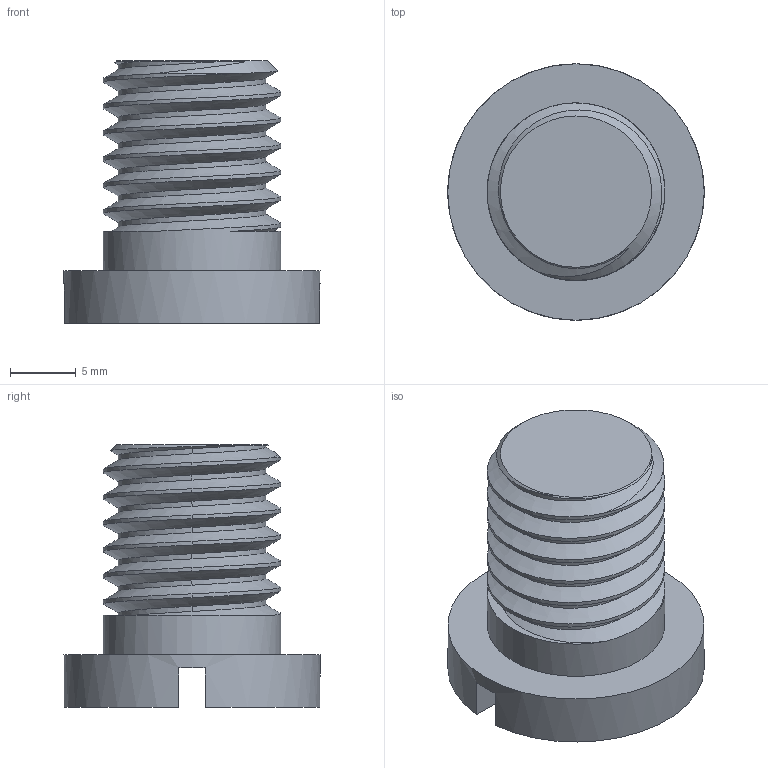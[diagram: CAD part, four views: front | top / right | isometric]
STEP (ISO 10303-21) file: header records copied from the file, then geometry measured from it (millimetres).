
FILE_DESCRIPTION(/* description */ ('','CAx-IF Rec.Pracs.---Representation and Presentation of Product Manufacturing Information (PMI)---4.0---2014-10-13'),/* implementation_level */ '2;1');
FILE_NAME(/* name */ 'Goews Bolt HD 9mm.step',/* time_stamp */ '2024-12-06T11:54:27-05:00',/* author */ (''),/* organization */ (''),/* preprocessor_version */ 'ST-DEVELOPER v20',/* originating_system */ 'Autodesk Translation Framework v13.20.0.188',/* authorisation */ '');
FILE_SCHEMA (('AP242_MANAGED_MODEL_BASED_3D_ENGINEERING_MIM_LF { 1 0 10303 442 1 1 4 }'));
Length unit declared in the file: millimetre
Products named in the file (2): Goews Bolt Parametric HD; Bolt
Assembly tree (1 placements, depth 2):
  Goews Bolt Parametric HD
    Bolt
Bounding box: 19.52 x 19.52 x 20 mm (x, y, z)
Volume: 3060.7 mm3; surface area: 1894.6 mm2
Topology: 1 solids, 1 shells, 28 faces, 75 edges, 50 vertices
Faces by surface type: cylinder 16, plane 9, bspline 2, cone 1
Full cylindrical faces by diameter (mm): 11.234 x6, 13.522 x6, 19.522 x1
Entity records: 2840 total; most frequent: CARTESIAN_POINT 2150, ORIENTED_EDGE 150, DIRECTION 110, EDGE_CURVE 75, VERTEX_POINT 50, AXIS2_PLACEMENT_3D 43, B_SPLINE_CURVE_WITH_KNOTS 37, EDGE_LOOP 29
